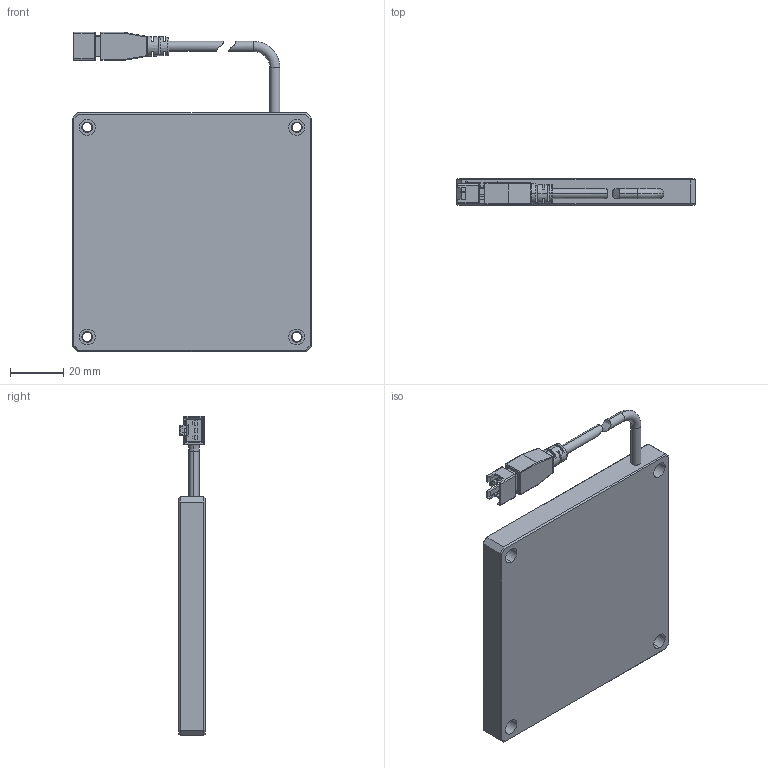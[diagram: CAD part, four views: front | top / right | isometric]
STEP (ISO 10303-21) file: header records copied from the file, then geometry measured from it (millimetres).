
FILE_DESCRIPTION((''),'2;1');
FILE_NAME('P-FCL-50-CS-JIANYI3D_ASM','2015-04-27T',('Administrator'),(''),'PRO/ENGINEER BY PARAMETRIC TECHNOLOGY CORPORATION, 2011220','PRO/ENGINEER BY PARAMETRIC TECHNOLOGY CORPORATION, 2011220','');
FILE_SCHEMA(('CONFIG_CONTROL_DESIGN'));
Length unit declared in the file: millimetre
Products named in the file (3): PRT0001; LINE_OUT; P-FCL-50-CS-JIANYI3D_ASM
Assembly tree (2 placements, depth 2):
  P-FCL-50-CS-JIANYI3D_ASM
    PRT0001
    LINE_OUT
Bounding box: 90 x 10 x 120.25 mm (x, y, z)
Volume: 82706.8 mm3; surface area: 23006 mm2
Topology: 3 solids, 7 shells, 275 faces, 682 edges, 427 vertices
Faces by surface type: plane 158, cylinder 87, torus 10, bspline 8, sphere 8, cone 2, extrusion 2
Entity records: 8400 total; most frequent: CARTESIAN_POINT 1700, DIRECTION 1406, ORIENTED_EDGE 1348, EDGE_CURVE 682, AXIS2_PLACEMENT_3D 480, VECTOR 446, LINE 444, VERTEX_POINT 427
